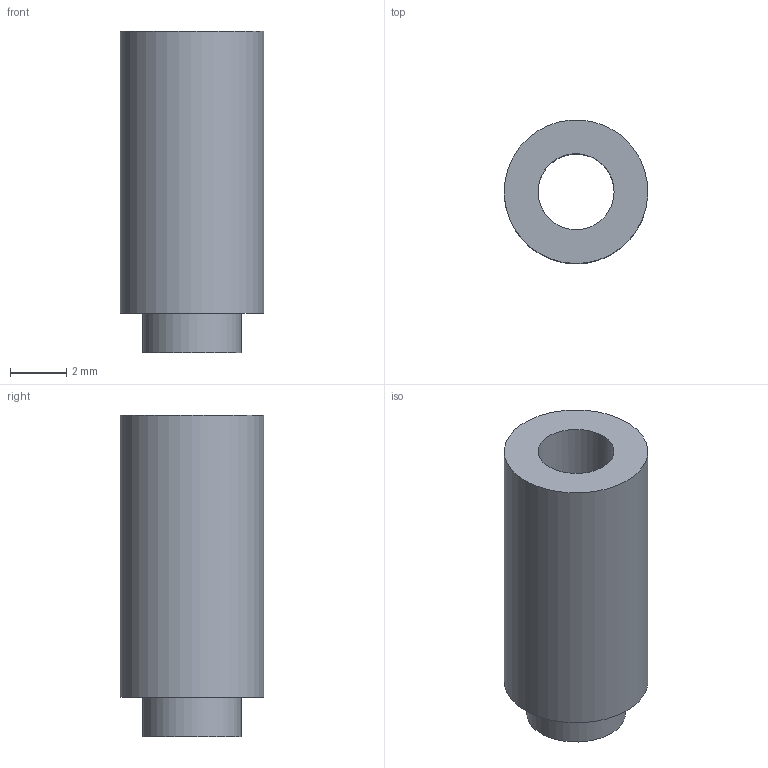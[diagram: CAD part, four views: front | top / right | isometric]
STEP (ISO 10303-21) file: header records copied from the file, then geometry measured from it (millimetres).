
FILE_DESCRIPTION(('FreeCAD Model'),'2;1');
FILE_NAME('Open CASCADE Shape Model','2026-03-20T17:23:26',('Author'),( ''),'Open CASCADE STEP processor 7.8','FreeCAD','Unknown');
FILE_SCHEMA(('AP242_MANAGED_MODEL_BASED_3D_ENGINEERING_MIM_LF. {1 0 10303 442 1 1 4 }'));
Length unit declared in the file: millimetre
Products named in the file (1): 1_transformed
Bounding box: 5.1 x 5.09 x 11.4 mm (x, y, z)
Volume: 153.9 mm3; surface area: 302.4 mm2
Topology: 1 solids, 1 shells, 6 faces, 10 edges, 7 vertices
Faces by surface type: bspline 6
Entity records: 209 total; most frequent: CARTESIAN_POINT 113, ORIENTED_EDGE 20, EDGE_CURVE 10, FACE_BOUND 9, EDGE_LOOP 9, VERTEX_POINT 7, ADVANCED_FACE 6, B_SPLINE_SURFACE_WITH_KNOTS 3
